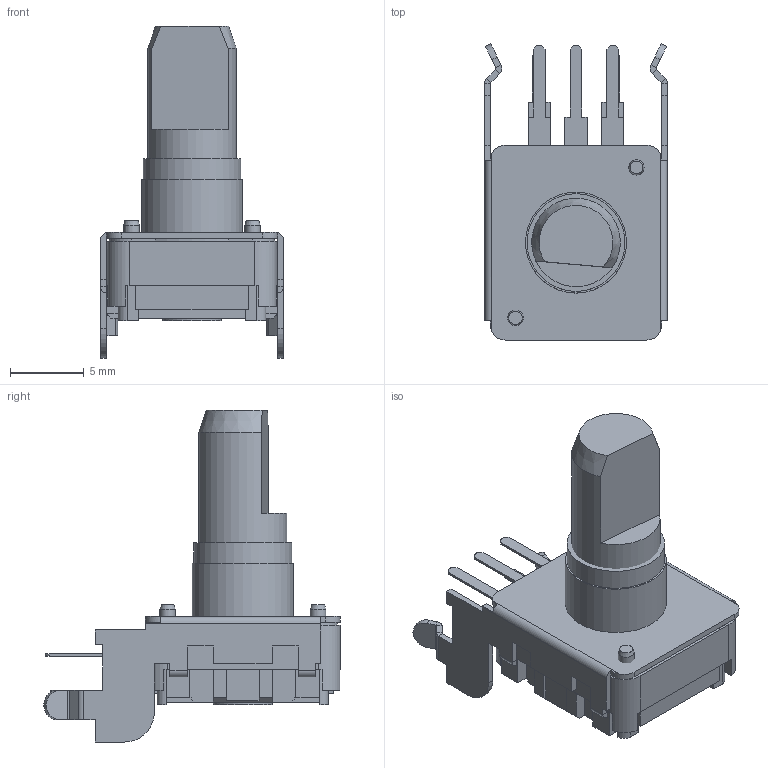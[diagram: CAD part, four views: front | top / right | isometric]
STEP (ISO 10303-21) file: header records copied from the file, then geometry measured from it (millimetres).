
FILE_DESCRIPTION(/* description */ (''),/* implementation_level */ '2;1');
FILE_NAME(/* name */ '\\Forward-ks-ad\開發專區\\X2\9AD896C45EE08A2D8A088AB2\X0\\設計機種開發作業\\X2\91CF75226A5F7A2E5C086848\X0\\ENCODER\機種開發\Encoder\DC12K\3D\CTS\DC12K1211202.stp',/* time_stamp */ '2020-06-15T12:06:56+08:00',/* author */ ('jia'),/* organization */ (''),/* preprocessor_version */ 'ST-DEVELOPER v15.2',/* originating_system */ 'Autodesk Inventor 2014',/* authorisation */ '');
FILE_SCHEMA (('AUTOMOTIVE_DESIGN { 1 0 10303 214 3 1 1 }'));
Length unit declared in the file: millimetre
Products named in the file (1): 組合1_Shrinkwrap_1
Bounding box: 12.4 x 20.09 x 22.51 mm (x, y, z)
Surface area: 1814.4 mm2 (no closed solid volume)
Topology: 0 solids, 20 shells, 289 faces, 821 edges, 538 vertices
Faces by surface type: plane 241, cylinder 45, cone 3
Full cylindrical faces by diameter (mm): 1.031 x1, 1.067 x1, 4 x1, 6 x1, 6.625 x1, 6.849 x1
Entity records: 9429 total; most frequent: CARTESIAN_POINT 1663, DIRECTION 1512, ORIENTED_EDGE 1456, EDGE_CURVE 812, LINE 680, VECTOR 680, VERTEX_POINT 537, AXIS2_PLACEMENT_3D 416
